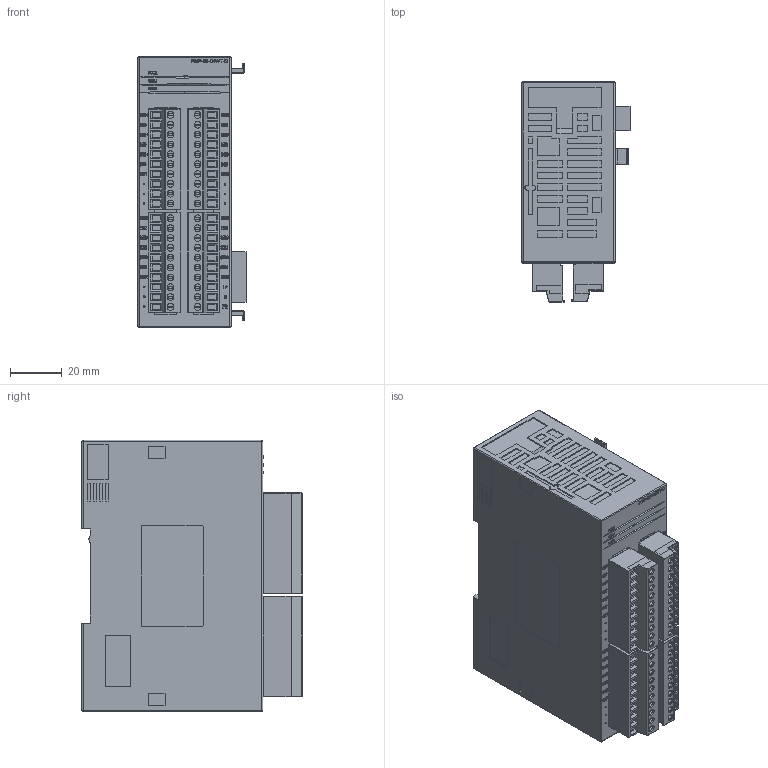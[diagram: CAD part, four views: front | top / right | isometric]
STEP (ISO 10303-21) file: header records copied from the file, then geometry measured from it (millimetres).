
FILE_DESCRIPTION(('STEP AP242'), '1');
FILE_NAME('PMP-01-E4WT-D', '2025-08-18T09:09:37', ('PROMPOWER'), (''), 'C3D Converter', 'C3D Toolkit', '');
FILE_SCHEMA(('AP242_MANAGED_MODEL_BASED_3D_ENGINEERING_MIM_LF { 1 0 10303 442 1 1 4 }'));
Length unit declared in the file: millimetre
Products named in the file (1): PMP-01-E4WT-D
Bounding box: 41.8 x 85.17 x 105 mm (x, y, z)
Surface area: 43522.8 mm2
Topology: 13 solids, 169 shells, 2741 faces, 9089 edges, 6661 vertices
Faces by surface type: plane 1975, bspline 370, cylinder 326, extrusion 70
Full cylindrical faces by diameter (mm): 2.6 x40, 2.85 x36
Entity records: 187150 total; most frequent: CARTESIAN_POINT 93051, ORIENTED_EDGE 15489, DIRECTION 11067, EDGE_CURVE 8977, VERTEX_POINT 6743, VECTOR 4765, LINE 4695, B_SPLINE_CURVE_WITH_KNOTS 3470
